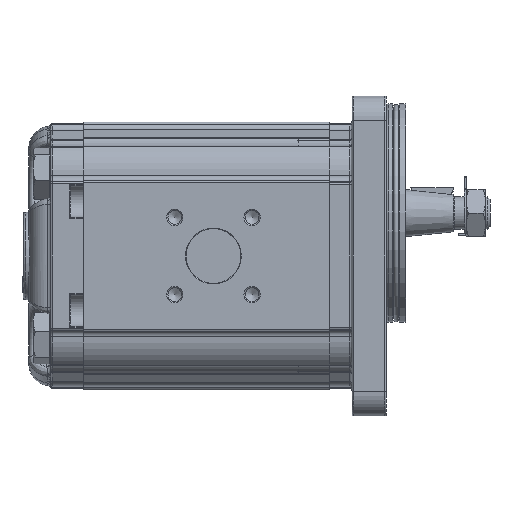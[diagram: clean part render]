
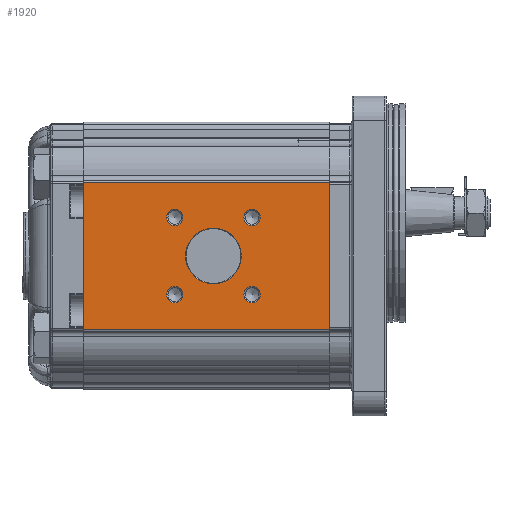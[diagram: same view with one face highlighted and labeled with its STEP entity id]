
A CAD part, left-side view. The second image highlights one B-rep face of the part: STEP entity #1920.
In plain terms, the highlighted planar face has unit normal (-1, 0, 0).
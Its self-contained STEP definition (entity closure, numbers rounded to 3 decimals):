
#1920 = ADVANCED_FACE( '', ( #5628, #5629, #5630, #5631, #5632, #5633 ), #5634, .T. );
#5628 = FACE_BOUND( '', #11395, .T. );
#5629 = FACE_BOUND( '', #11396, .T. );
#5630 = FACE_BOUND( '', #11397, .T. );
#5631 = FACE_BOUND( '', #11398, .T. );
#5632 = FACE_BOUND( '', #11399, .T. );
#5633 = FACE_OUTER_BOUND( '', #11400, .T. );
#5634 = PLANE( '', #11401 );
#11395 = EDGE_LOOP( '', ( #22058 ) );
#11396 = EDGE_LOOP( '', ( #22059 ) );
#11397 = EDGE_LOOP( '', ( #22060 ) );
#11398 = EDGE_LOOP( '', ( #22061 ) );
#11399 = EDGE_LOOP( '', ( #22062 ) );
#11400 = EDGE_LOOP( '', ( #22063, #22064, #22065, #22066 ) );
#11401 = AXIS2_PLACEMENT_3D( '', #22067, #22068, #22069 );
#22058 = ORIENTED_EDGE( '', *, *, #38358, .T. );
#22059 = ORIENTED_EDGE( '', *, *, #38402, .T. );
#22060 = ORIENTED_EDGE( '', *, *, #38403, .T. );
#22061 = ORIENTED_EDGE( '', *, *, #38404, .T. );
#22062 = ORIENTED_EDGE( '', *, *, #38405, .T. );
#22063 = ORIENTED_EDGE( '', *, *, #38406, .F. );
#22064 = ORIENTED_EDGE( '', *, *, #38407, .F. );
#22065 = ORIENTED_EDGE( '', *, *, #38408, .T. );
#22066 = ORIENTED_EDGE( '', *, *, #38409, .T. );
#22067 = CARTESIAN_POINT( '', ( -43., 90., 27.048 ) );
#22068 = DIRECTION( '', ( -1., 0., 0. ) );
#22069 = DIRECTION( '', ( 0., 0., 1. ) );
#38358 = EDGE_CURVE( '', #44840, #44840, #44841, .F. );
#38402 = EDGE_CURVE( '', #44919, #44919, #44920, .F. );
#38403 = EDGE_CURVE( '', #44921, #44921, #44922, .F. );
#38404 = EDGE_CURVE( '', #44923, #44923, #44924, .F. );
#38405 = EDGE_CURVE( '', #44925, #44925, #44926, .F. );
#38406 = EDGE_CURVE( '', #44927, #44928, #44929, .T. );
#38407 = EDGE_CURVE( '', #44930, #44927, #44931, .T. );
#38408 = EDGE_CURVE( '', #44930, #44932, #44933, .T. );
#38409 = EDGE_CURVE( '', #44932, #44928, #44934, .T. );
#44840 = VERTEX_POINT( '', #54134 );
#44841 = CIRCLE( '', #54135, 10.2 );
#44919 = VERTEX_POINT( '', #54257 );
#44920 = CIRCLE( '', #54258, 3. );
#44921 = VERTEX_POINT( '', #54259 );
#44922 = CIRCLE( '', #54260, 3. );
#44923 = VERTEX_POINT( '', #54261 );
#44924 = CIRCLE( '', #54262, 3. );
#44925 = VERTEX_POINT( '', #54263 );
#44926 = CIRCLE( '', #54264, 3. );
#44927 = VERTEX_POINT( '', #54265 );
#44928 = VERTEX_POINT( '', #54266 );
#44929 = LINE( '', #54267, #54268 );
#44930 = VERTEX_POINT( '', #54269 );
#44931 = LINE( '', #54270, #54271 );
#44932 = VERTEX_POINT( '', #54272 );
#44933 = LINE( '', #54273, #54274 );
#44934 = LINE( '', #54275, #54276 );
#54134 = CARTESIAN_POINT( '', ( -43., 42.5, 10.2 ) );
#54135 = AXIS2_PLACEMENT_3D( '', #74215, #74216, #74217 );
#54257 = CARTESIAN_POINT( '', ( -43., 56.642, -11.142 ) );
#54258 = AXIS2_PLACEMENT_3D( '', #74262, #74263, #74264 );
#54259 = CARTESIAN_POINT( '', ( -43., 56.642, 17.142 ) );
#54260 = AXIS2_PLACEMENT_3D( '', #74265, #74266, #74267 );
#54261 = CARTESIAN_POINT( '', ( -43., 28.358, 17.142 ) );
#54262 = AXIS2_PLACEMENT_3D( '', #74268, #74269, #74270 );
#54263 = CARTESIAN_POINT( '', ( -43., 28.358, -11.142 ) );
#54264 = AXIS2_PLACEMENT_3D( '', #74271, #74272, #74273 );
#54265 = CARTESIAN_POINT( '', ( -43., 0., 27.048 ) );
#54266 = CARTESIAN_POINT( '', ( -43., 0., -27.048 ) );
#54267 = CARTESIAN_POINT( '', ( -43., 0., 27.048 ) );
#54268 = VECTOR( '', #74274, 1000. );
#54269 = CARTESIAN_POINT( '', ( -43., 90., 27.048 ) );
#54270 = CARTESIAN_POINT( '', ( -43., 90., 27.048 ) );
#54271 = VECTOR( '', #74275, 1000. );
#54272 = CARTESIAN_POINT( '', ( -43., 90., -27.048 ) );
#54273 = CARTESIAN_POINT( '', ( -43., 90., 27.048 ) );
#54274 = VECTOR( '', #74276, 1000. );
#54275 = CARTESIAN_POINT( '', ( -43., 90., -27.048 ) );
#54276 = VECTOR( '', #74277, 1000. );
#74215 = CARTESIAN_POINT( '', ( -43., 42.5, 0. ) );
#74216 = DIRECTION( '', ( -1., 0., 0. ) );
#74217 = DIRECTION( '', ( 0., 0., 1. ) );
#74262 = CARTESIAN_POINT( '', ( -43., 56.642, -14.142 ) );
#74263 = DIRECTION( '', ( -1., 0., 0. ) );
#74264 = DIRECTION( '', ( 0., 0., 1. ) );
#74265 = CARTESIAN_POINT( '', ( -43., 56.642, 14.142 ) );
#74266 = DIRECTION( '', ( -1., 0., 0. ) );
#74267 = DIRECTION( '', ( 0., 0., 1. ) );
#74268 = CARTESIAN_POINT( '', ( -43., 28.358, 14.142 ) );
#74269 = DIRECTION( '', ( -1., 0., 0. ) );
#74270 = DIRECTION( '', ( 0., 0., 1. ) );
#74271 = CARTESIAN_POINT( '', ( -43., 28.358, -14.142 ) );
#74272 = DIRECTION( '', ( -1., 0., 0. ) );
#74273 = DIRECTION( '', ( 0., 0., 1. ) );
#74274 = DIRECTION( '', ( 0., 0., -1. ) );
#74275 = DIRECTION( '', ( 0., -1., 0. ) );
#74276 = DIRECTION( '', ( 0., 0., -1. ) );
#74277 = DIRECTION( '', ( 0., -1., 0. ) );
